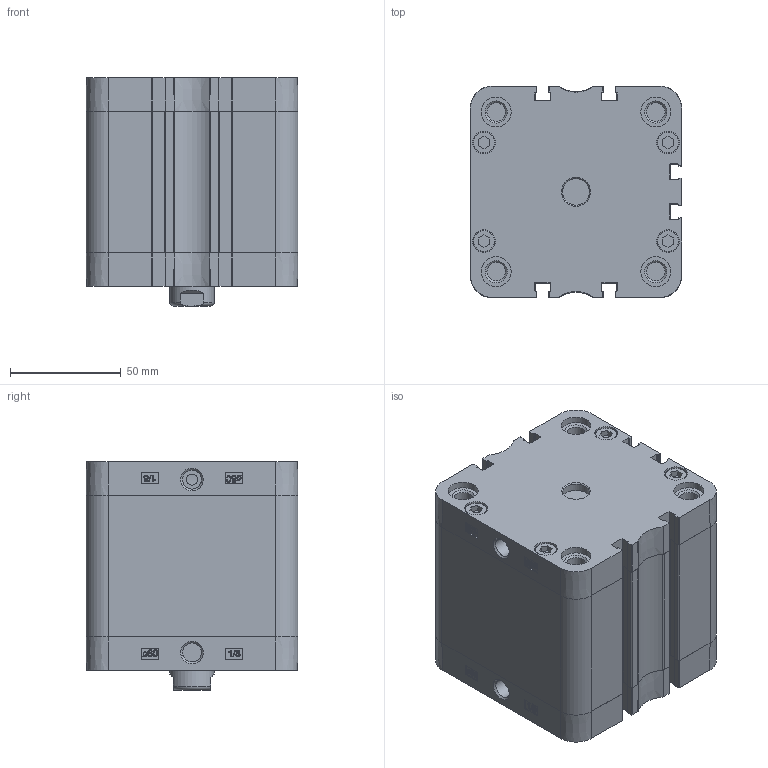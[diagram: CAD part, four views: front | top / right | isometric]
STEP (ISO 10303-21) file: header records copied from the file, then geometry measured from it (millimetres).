
FILE_DESCRIPTION(/* description */ ('Unknown'),/* implementation_level */ '2;1');
FILE_NAME(/* name */ 'ZIN 80_40',/* time_stamp */ '2024-11-12T08:18:19+01:00',/* author */ ('Unknown'),/* organization */ ('HAFNER Pneumatika Kft.'),/* preprocessor_version */ 'ST-DEVELOPER v18.102',/* originating_system */ 'Solid Edge',/* authorisation */ 'Unknown');
FILE_SCHEMA (('AUTOMOTIVE_DESIGN {1 0 10303 214 3 1 1}'));
Length unit declared in the file: millimetre
Products named in the file (5): ZIN 80_40; Kit_1; Kit_2; Kolbenstange; Profilrohr
Assembly tree (4 placements, depth 2):
  ZIN 80_40
    Kit_1
    Kit_2
    Kolbenstange
    Profilrohr
Bounding box: 95.5 x 95.5 x 103 mm (x, y, z)
Volume: 619522.2 mm3; surface area: 129411.5 mm2
Topology: 4 solids, 4 shells, 731 faces, 1944 edges, 1291 vertices
Faces by surface type: plane 341, cylinder 208, bspline 122, cone 41, torus 19
Full cylindrical faces by diameter (mm): 5 x1, 8.376 x8, 8.566 x2, 9.8 x8, 10.106 x2, 10.3 x8, 12 x1, 13.5 x8, 20 x1, 20.6 x1, 21.9 x1, 23 x1, 25 x1, 80 x2
Entity records: 27386 total; most frequent: CARTESIAN_POINT 5712, ORIENTED_EDGE 3634, DIRECTION 3264, EDGE_CURVE 1817, VERTEX_POINT 1260, AXIS2_PLACEMENT_3D 1098, LINE 1068, VECTOR 1068
